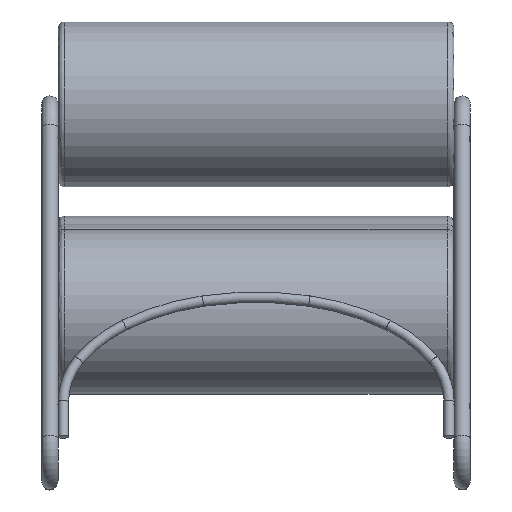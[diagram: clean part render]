
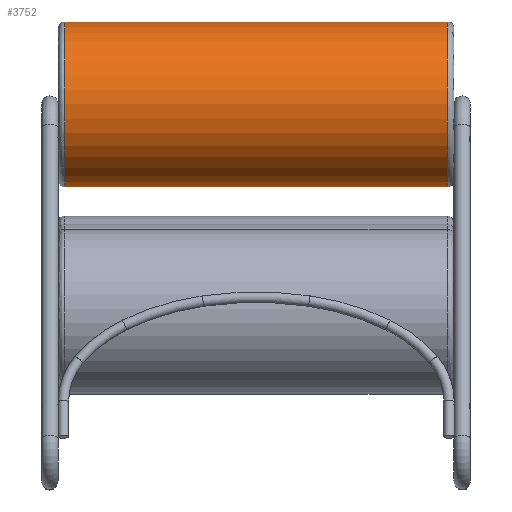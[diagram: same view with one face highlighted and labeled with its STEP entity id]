
A CAD part, left-side view. The second image highlights one B-rep face of the part: STEP entity #3752.
In plain terms, the highlighted cylindrical face has radius 125 mm (diameter 250 mm), a full revolution.
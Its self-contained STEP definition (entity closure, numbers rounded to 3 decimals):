
#274=LINE('',#12895,#391);
#391=VECTOR('',#5288,125.);
#468=CYLINDRICAL_SURFACE('',#4299,125.);
#691=FACE_OUTER_BOUND('',#941,.T.);
#941=EDGE_LOOP('',(#3208,#3209,#3210,#3211,#3212));
#1210=CIRCLE('',#4298,125.);
#1211=CIRCLE('',#4300,125.);
#1212=CIRCLE('',#4301,125.);
#1683=VERTEX_POINT('',#12867);
#1685=VERTEX_POINT('',#12894);
#1686=VERTEX_POINT('',#12896);
#2194=EDGE_CURVE('',#1683,#1683,#1210,.T.);
#2195=EDGE_CURVE('',#1683,#1685,#274,.T.);
#2196=EDGE_CURVE('',#1686,#1685,#1211,.T.);
#2197=EDGE_CURVE('',#1685,#1686,#1212,.T.);
#3208=ORIENTED_EDGE('',*,*,#2194,.F.);
#3209=ORIENTED_EDGE('',*,*,#2195,.T.);
#3210=ORIENTED_EDGE('',*,*,#2196,.F.);
#3211=ORIENTED_EDGE('',*,*,#2197,.F.);
#3212=ORIENTED_EDGE('',*,*,#2195,.F.);
#3752=ADVANCED_FACE('',(#691),#468,.T.);
#4298=AXIS2_PLACEMENT_3D('',#12892,#5284,#5285);
#4299=AXIS2_PLACEMENT_3D('',#12893,#5286,#5287);
#4300=AXIS2_PLACEMENT_3D('',#12897,#5289,#5290);
#4301=AXIS2_PLACEMENT_3D('',#12898,#5291,#5292);
#5284=DIRECTION('center_axis',(0.,1.,0.));
#5285=DIRECTION('ref_axis',(1.,0.,0.001));
#5286=DIRECTION('center_axis',(0.,1.,0.));
#5287=DIRECTION('ref_axis',(1.,0.,0.001));
#5288=DIRECTION('',(0.,-1.,0.));
#5289=DIRECTION('center_axis',(0.,-1.,0.));
#5290=DIRECTION('ref_axis',(0.001,0.,-1.));
#5291=DIRECTION('center_axis',(0.,-1.,0.));
#5292=DIRECTION('ref_axis',(0.001,0.,-1.));
#12867=CARTESIAN_POINT('',(4589.139,-5314.646,603.114));
#12892=CARTESIAN_POINT('Origin',(4714.139,-5314.646,603.215));
#12893=CARTESIAN_POINT('Origin',(4714.139,-5904.446,603.216));
#12894=CARTESIAN_POINT('',(4589.139,-5894.446,603.115));
#12895=CARTESIAN_POINT('',(4589.139,-5904.446,603.115));
#12896=CARTESIAN_POINT('',(4714.038,-5894.446,728.216));
#12897=CARTESIAN_POINT('Origin',(4714.139,-5894.446,603.216));
#12898=CARTESIAN_POINT('Origin',(4714.139,-5894.446,603.216));
